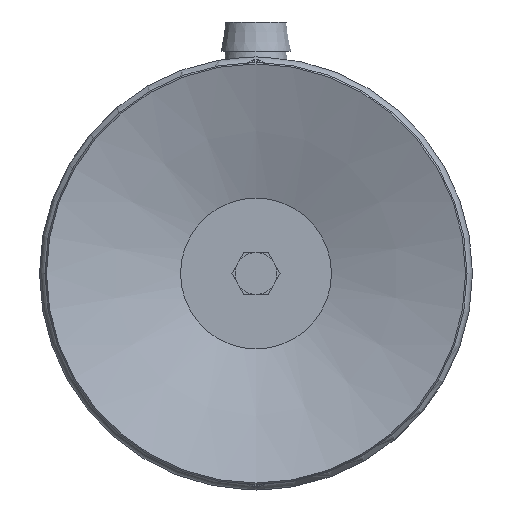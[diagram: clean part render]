
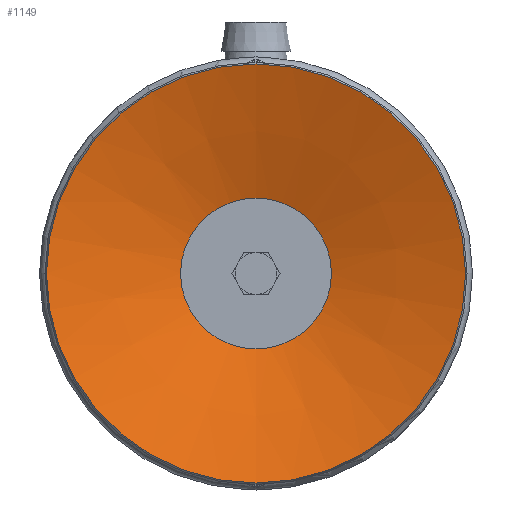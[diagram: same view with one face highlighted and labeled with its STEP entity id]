
A CAD part, front view. The second image highlights one B-rep face of the part: STEP entity #1149.
In plain terms, the highlighted conical face has half-angle 71.075 degrees and reference radius 15 mm.
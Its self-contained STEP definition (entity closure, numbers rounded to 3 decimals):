
#1149=ADVANCED_FACE('',(#2901,#2902),#2903,.F.);
#2901=FACE_BOUND('',#5354,.T.);
#2902=FACE_OUTER_BOUND('',#5355,.T.);
#2903=CONICAL_SURFACE('',#5356,15.0,1.24);
#5354=EDGE_LOOP('',(#8699));
#5355=EDGE_LOOP('',(#8700));
#5356=AXIS2_PLACEMENT_3D('',#8701,#8702,#8703);
#8699=ORIENTED_EDGE('',*,*,#15803,.T.);
#8700=ORIENTED_EDGE('',*,*,#15804,.T.);
#8701=CARTESIAN_POINT('',(0.,0.,0.0));
#8702=DIRECTION('',(0.0,0.,-1.0));
#8703=DIRECTION('',(0.0,1.0,0.));
#15803=EDGE_CURVE('',#19441,#19441,#19442,.T.);
#15804=EDGE_CURVE('',#19443,#19443,#19444,.T.);
#19441=VERTEX_POINT('',#25646);
#19442=CIRCLE('',#25647,5.4);
#19443=VERTEX_POINT('',#25648);
#19444=CIRCLE('',#25649,15.0);
#25646=CARTESIAN_POINT('',(-5.4,0.,3.291));
#25647=AXIS2_PLACEMENT_3D('',#31379,#31380,#31381);
#25648=CARTESIAN_POINT('',(0.,15.0,0.));
#25649=AXIS2_PLACEMENT_3D('',#31382,#31383,#31384);
#31379=CARTESIAN_POINT('',(0.,0.,3.291));
#31380=DIRECTION('',(0.,0.0,1.0));
#31381=DIRECTION('',(-1.0,0.0,0.));
#31382=CARTESIAN_POINT('',(0.,0.,0.0));
#31383=DIRECTION('',(0.0,0.,-1.0));
#31384=DIRECTION('',(0.0,1.0,0.));
